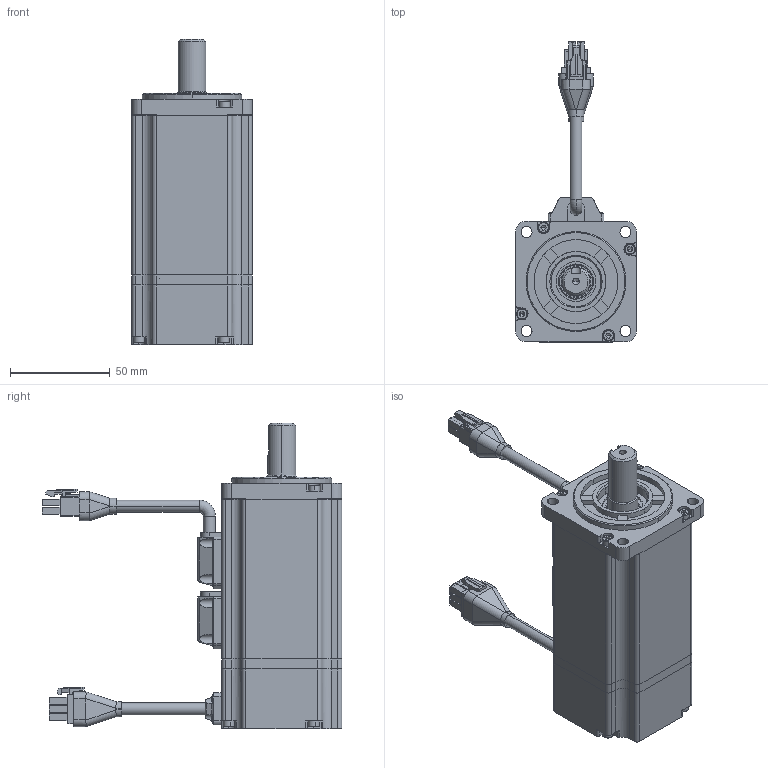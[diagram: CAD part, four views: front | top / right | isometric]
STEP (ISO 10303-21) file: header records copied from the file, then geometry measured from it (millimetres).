
FILE_DESCRIPTION (( 'STEP AP203' ), '1' );
FILE_NAME ('R60-400.STEP', '2019-08-23T07:01:57', ( '1' ), ( 'MideaGroup IT' ), 'SwSTEP 2.0', 'SolidWorks 2012', '' );
FILE_SCHEMA (( 'CONFIG_CONTROL_DESIGN' ));
Length unit declared in the file: millimetre
Products named in the file (26): R60-400; 雄薯盄揤裔郪璃; M3X28_GB_FASTENER_SCREWS_HSHCS M3X25-C; 雄薯盄傷赽裔; 雄薯盄; 雄薯盄傷赽; 雄薯盄躇猾菜; 雄薯盄揤裔; 毀嚏盄揤裔郪璃; 毀嚏盄傷赽揤裔; M2.5X5_GB_CROSS_SCREWS_TYPE3 M2.5X8-8-N; 晤鎢ん盄傷赽; 晤鎢ん盄揤裔躇猾; 晤鎢ん盄揤裔; 蛌赽郪璃-001; 6003; 6003_qiu; 6003_bq; 6003_nh; 6003_wq; 萇儂粣-001; 綴裔-001; 綴傷裔-001; ヶ傷裔-001; 儂褲-001
Assembly tree (56 placements, depth 4):
  R60-400
    儂褲-001
    ヶ傷裔-001
    綴傷裔-001
    綴裔-001
    蛌赽郪璃-001
      萇儂粣-001
      6003
        6003_wq
        6003_nh
        6003_bq
        6003_qiu  x11
    毀嚏盄揤裔郪璃
      晤鎢ん盄揤裔
      晤鎢ん盄揤裔躇猾
      晤鎢ん盄傷赽
      M2.5X5_GB_CROSS_SCREWS_TYPE3 M2.5X8-8-N  x4
      毀嚏盄傷赽揤裔
    雄薯盄揤裔郪璃
      雄薯盄揤裔
      雄薯盄躇猾菜
      雄薯盄傷赽
      雄薯盄
      M2.5X5_GB_CROSS_SCREWS_TYPE3 M2.5X8-8-N  x4
      雄薯盄傷赽裔
    M3X28_GB_FASTENER_SCREWS_HSHCS M3X25-C  x8
    雄薯盄揤裔郪璃
      雄薯盄揤裔
      雄薯盄躇猾菜
      雄薯盄
      M2.5X5_GB_CROSS_SCREWS_TYPE3 M2.5X8-8-N  x4
Bounding box: 60.2 x 150 x 153 mm (x, y, z)
Volume: 156434.5 mm3; surface area: 109899.8 mm2
Topology: 56 solids, 82 shells, 1826 faces, 4936 edges, 3258 vertices
Faces by surface type: plane 904, cylinder 709, cone 89, torus 56, sphere 46, bspline 22
Entity records: 46518 total; most frequent: CARTESIAN_POINT 11888, DIRECTION 6590, ORIENTED_EDGE 6245, EDGE_CURVE 3303, AXIS2_PLACEMENT_3D 2334, VERTEX_POINT 2198, LINE 1922, VECTOR 1922
